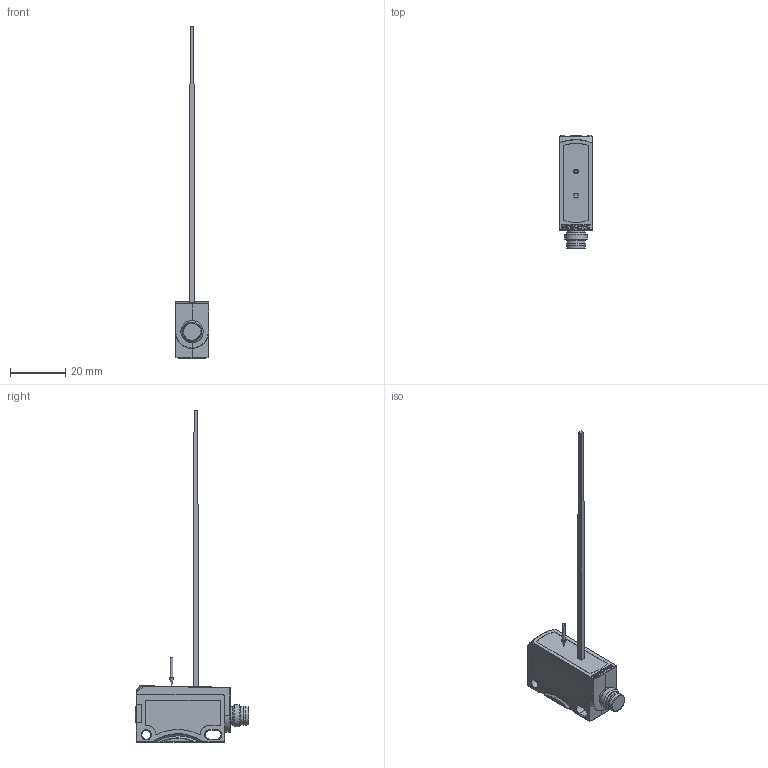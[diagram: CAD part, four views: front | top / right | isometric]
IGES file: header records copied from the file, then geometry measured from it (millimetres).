
Global section: file name: 604-41010_FT 25-RLA-80-PNSU-M4M; native system: Autodesk Inventor 2022; preprocessor: unknown; author: Sandra.Stahl; date: 20230314.141713; units: millimetre
Bounding box: 12 x 41 x 119.97 mm (x, y, z)
Volume: 8183.6 mm3; surface area: 3765.6 mm2
Topology: 3 solids, 3 shells, 266 faces, 648 edges, 394 vertices
Faces by surface type: bspline 266
